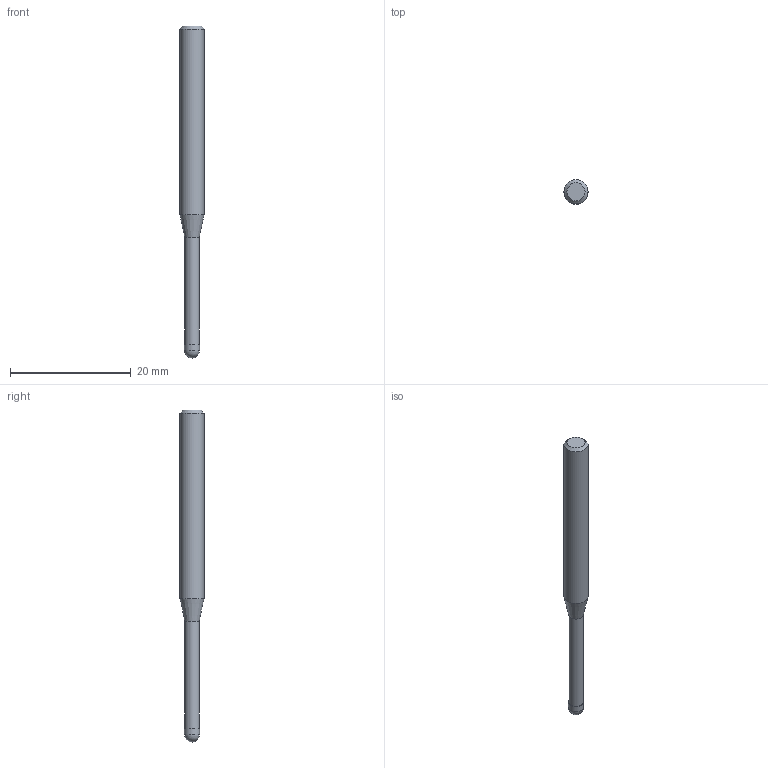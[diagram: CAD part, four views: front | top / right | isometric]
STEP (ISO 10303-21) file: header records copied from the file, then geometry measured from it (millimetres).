
FILE_DESCRIPTION((''),'2;1');
FILE_NAME('C:\Users\nsx150\AppData\Local\Temp\Mastercam 2021\ARV7HD45SN\TEMP.step','2023-06-13T16:38:12',(''),(''),'STEP Write','Mastercam 2021 ... CNC Software, Inc.','');
FILE_SCHEMA(('AUTOMOTIVE_DESIGN'));
Length unit declared in the file: millimetre
Products named in the file (1): None
Bounding box: 4 x 4 x 55 mm (x, y, z)
Volume: 511.3 mm3; surface area: 600.7 mm2
Topology: 2 solids, 2 shells, 9 faces, 14 edges, 8 vertices
Faces by surface type: plane 3, cylinder 3, cone 2, sphere 1
Full cylindrical faces by diameter (mm): 2.4 x1, 2.5 x1, 4 x1
Entity records: 211 total; most frequent: DIRECTION 36, CARTESIAN_POINT 25, AXIS2_PLACEMENT_3D 18, ORIENTED_EDGE 14, EDGE_LOOP 14, STYLED_ITEM 12, ADVANCED_FACE 9, FACE_BOUND 8
